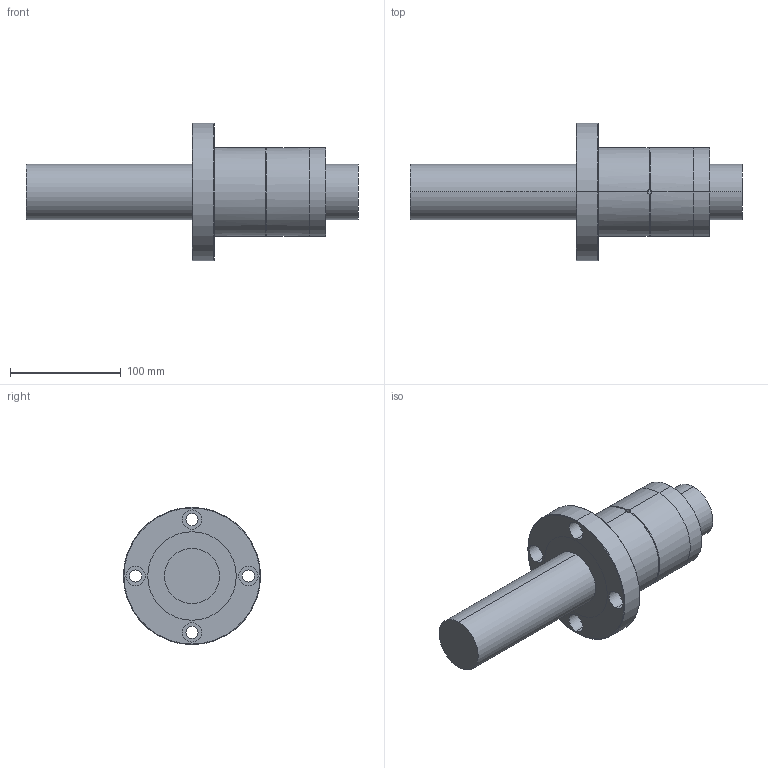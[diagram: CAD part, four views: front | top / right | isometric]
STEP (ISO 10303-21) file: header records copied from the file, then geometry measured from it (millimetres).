
FILE_DESCRIPTION (( 'STEP AP203' ), '1' );
FILE_NAME ('KLF050T4.STEP', '2023-08-17T07:29:28', ( '' ), ( '' ), 'SwSTEP 2.0', 'SolidWorks 2022', '' );
FILE_SCHEMA (( 'CONFIG_CONTROL_DESIGN' ));
Length unit declared in the file: millimetre
Products named in the file (5): 零件6^KLF050T4; 主体^KLF050T4; KLF050T4; 塑胶2^KLF050T4; 塑胶1^KLF050T4
Assembly tree (4 placements, depth 2):
  KLF050T4
    主体^KLF050T4
    塑胶1^KLF050T4
    塑胶2^KLF050T4
    零件6^KLF050T4
Bounding box: 300 x 124 x 124 mm (x, y, z)
Volume: 1085577.5 mm3; surface area: 146358.5 mm2
Topology: 4 solids, 4 shells, 62 faces, 144 edges, 92 vertices
Faces by surface type: cylinder 40, plane 14, torus 4, cone 4
Entity records: 2529 total; most frequent: CARTESIAN_POINT 525, DIRECTION 340, ORIENTED_EDGE 288, AXIS2_PLACEMENT_3D 147, EDGE_CURVE 144, VERTEX_POINT 92, EDGE_LOOP 82, CIRCLE 78
